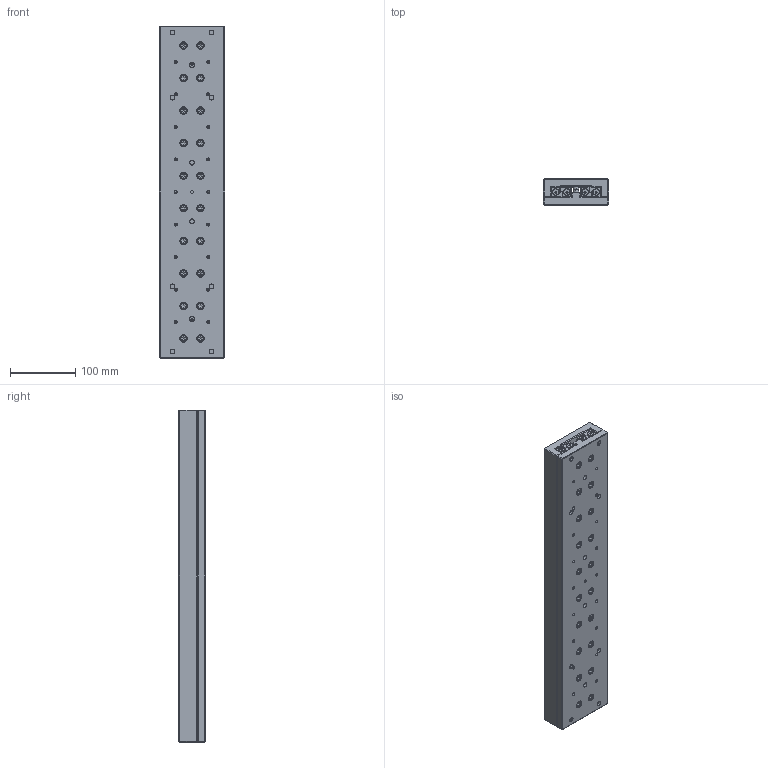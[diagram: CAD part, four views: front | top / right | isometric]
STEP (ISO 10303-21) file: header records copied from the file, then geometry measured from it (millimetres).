
FILE_DESCRIPTION(/* description */ ('Tavola TRL06 L=510 mm'),/* implementation_level */ '2;1');
FILE_NAME(/* name */ 'TRL060510-00.stp',/* time_stamp */ '2024-02-07T09:08:22+01:00',/* author */ ('Rosa sistemi'),/* organization */ (''),/* preprocessor_version */ 'ST-DEVELOPER v20',/* originating_system */ 'Autodesk Inventor 2024',/* authorisation */ '');
FILE_SCHEMA (('AUTOMOTIVE_DESIGN { 1 0 10303 214 3 1 1 }'));
Products named in the file (2): TRL060510-00; TRL060510-00_1
Assembly tree (1 placements, depth 2):
  TRL060510-00
    TRL060510-00_1
Bounding box: 100 x 40 x 510 mm (x, y, z)
Volume: 1828316.9 mm3; surface area: 371059.4 mm2
Topology: 16 solids, 16 shells, 2501 faces, 6555 edges, 4274 vertices
Faces by surface type: plane 1512, cylinder 379, cone 339, bspline 196, torus 75
Full cylindrical faces by diameter (mm): 1.548 x5, 4.134 x59, 4.256 x5, 6 x42, 7 x12, 8.5 x3, 9.5 x40, 9.64 x8, 10 x40, 11 x48
Entity records: 79094 total; most frequent: CARTESIAN_POINT 16882, ORIENTED_EDGE 12988, DIRECTION 11878, EDGE_CURVE 6494, VERTEX_POINT 4274, AXIS2_PLACEMENT_3D 3995, LINE 3888, VECTOR 3888
